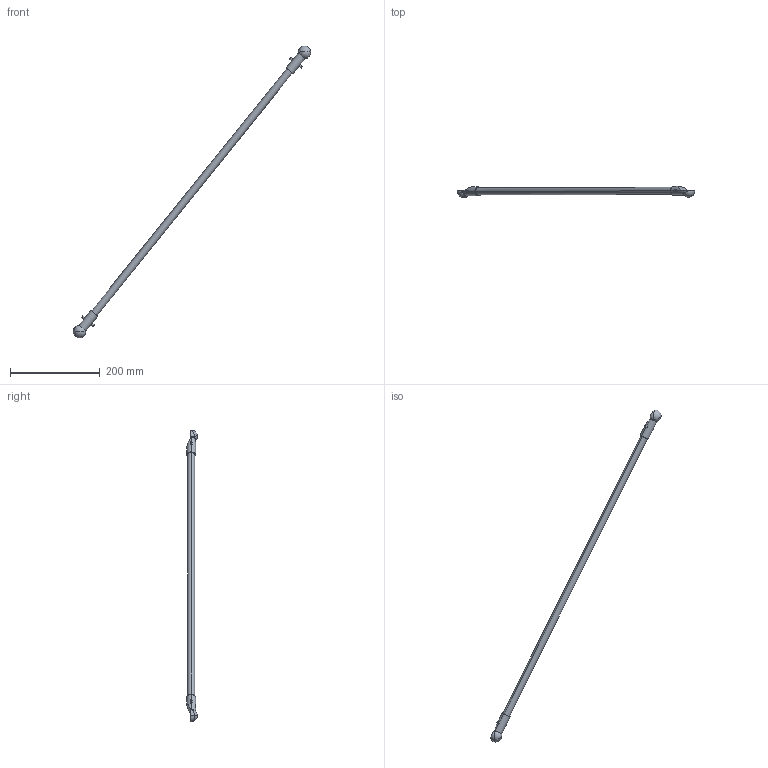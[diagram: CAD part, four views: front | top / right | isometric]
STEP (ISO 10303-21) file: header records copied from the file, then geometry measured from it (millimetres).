
FILE_DESCRIPTION (( 'STEP AP214' ), '1' );
FILE_NAME ('IRB360_8-1130-STD-4D_rev03_LA1_1_CAD.STEP', '2025-05-19T14:21:19', ( '' ), ( '' ), 'SwSTEP 2.0', 'SolidWorks 2022', '' );
FILE_SCHEMA (( 'AUTOMOTIVE_DESIGN' ));
Length unit declared in the file: millimetre
Products named in the file (1): IRB360_8-1130-STD-4D_rev03_LA1_1_CAD
Bounding box: 529.8 x 23.94 x 650.87 mm (x, y, z)
Volume: 172343.9 mm3; surface area: 44609.1 mm2
Topology: 1 solids, 1 shells, 41 faces, 115 edges, 68 vertices
Faces by surface type: cylinder 16, sphere 15, plane 10
Entity records: 1571 total; most frequent: CARTESIAN_POINT 416, DIRECTION 218, ORIENTED_EDGE 198, EDGE_CURVE 99, AXIS2_PLACEMENT_3D 97, VERTEX_POINT 62, CIRCLE 55, EDGE_LOOP 43
